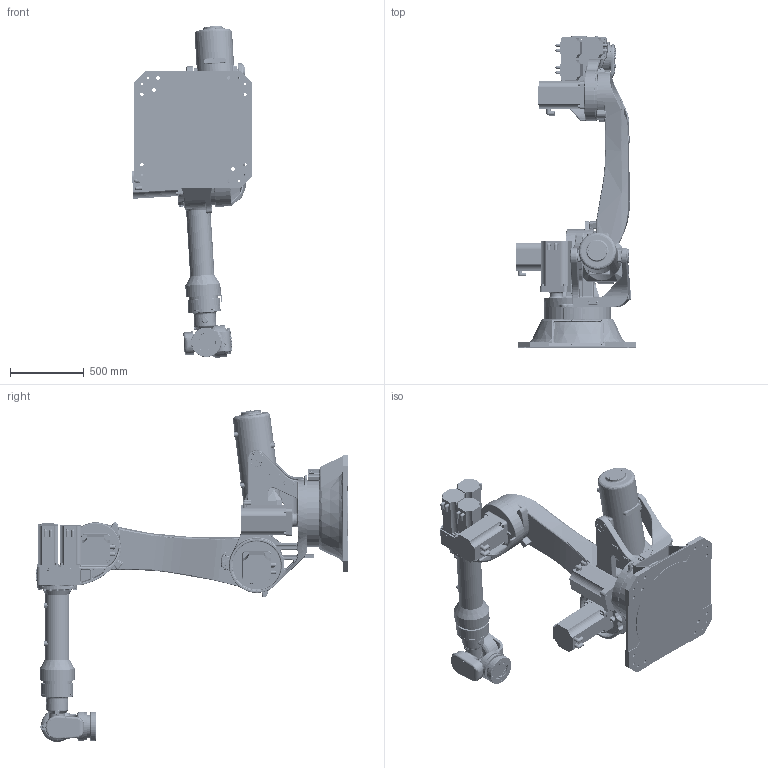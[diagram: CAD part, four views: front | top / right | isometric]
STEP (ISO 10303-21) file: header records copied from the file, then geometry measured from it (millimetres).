
FILE_DESCRIPTION (( 'STEP AP203' ), '1' );
FILE_NAME ('JZJ210A-268.STEP', '2018-08-28T09:04:46', ( '' ), ( '' ), 'SwSTEP 2.0', 'SolidWorks 2015', '' );
FILE_SCHEMA (( 'CONFIG_CONTROL_DESIGN' ));
Length unit declared in the file: millimetre
Products named in the file (9): JZJ210A-268-07; JZJ210A-268; JZJ210A-268-06; JZJ210A-268-05; JZJ210A-268-03; JZJ210A-268-04; JZJ210A-268-01; JZJ210A-268-02; JZJ210A-268-08
Assembly tree (8 placements, depth 2):
  JZJ210A-268
    JZJ210A-268-01
    JZJ210A-268-02
    JZJ210A-268-03
    JZJ210A-268-04
    JZJ210A-268-05
    JZJ210A-268-07
    JZJ210A-268-08
    JZJ210A-268-06
Bounding box: 818.73 x 2114.85 x 2255.32 mm (x, y, z)
Volume: 72291923.4 mm3; surface area: 12202066.5 mm2
Topology: 3 solids, 264 shells, 4716 faces, 13775 edges, 9146 vertices
Faces by surface type: cylinder 1746, plane 1579, bspline 1017, cone 291, torus 71, sphere 12
Full cylindrical faces by diameter (mm): 8 x2
Entity records: 315959 total; most frequent: CARTESIAN_POINT 198914, ORIENTED_EDGE 23767, DIRECTION 22171, EDGE_CURVE 13616, VERTEX_POINT 9137, AXIS2_PLACEMENT_3D 8202, LINE 5767, VECTOR 5767
